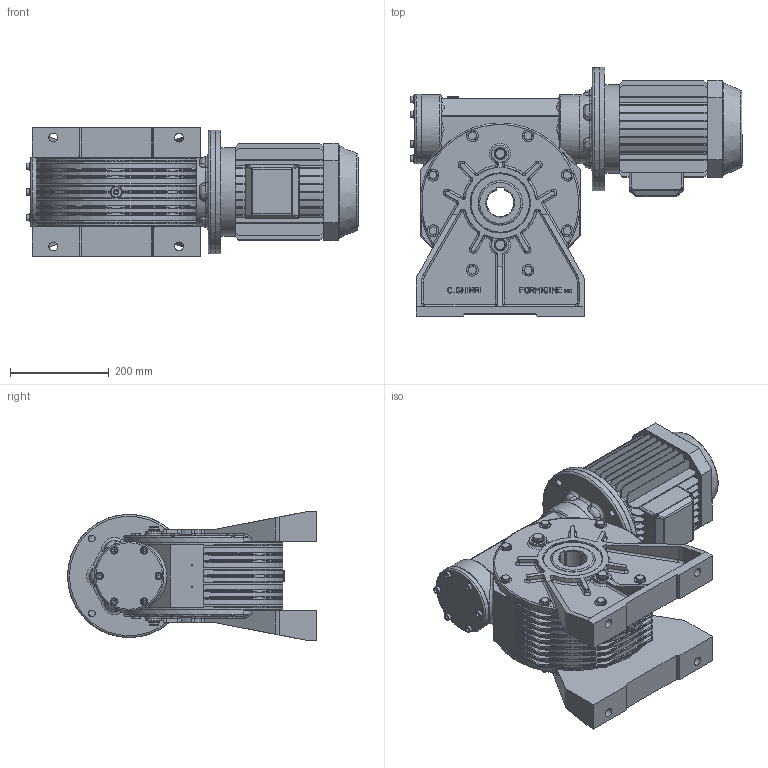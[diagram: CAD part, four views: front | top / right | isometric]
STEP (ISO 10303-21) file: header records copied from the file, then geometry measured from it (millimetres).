
FILE_DESCRIPTION((''),'2;1');
FILE_NAME('Y:\Archivi Inventor\Prog_01\GRAND_70\complessivi\Figurini\mrv70 sito\100\MRV70_P2_100_B5.stp','2013-02-08T14:43:25',('tech3'),(''),'Autodesk Inventor 2013','Autodesk Inventor 2013','');
FILE_SCHEMA(('AUTOMOTIVE_DESIGN { 1 0 10303 214 1 1 1 1 }'));
Length unit declared in the file: millimetre
Products named in the file (17): MRV70_100L_112M_B5; MRV70 figurino; 0107001-A0 figurino; 0107008.A0 figurino; 0107010.A0 figurino; 0107029; 0107009; 0107028; DIN 3760 AS AS - 90 x 120 x 12 - NBR; UNI 8839 A 8; Guarnizione 3_8 GAS; Tappo 3_8 GAS_esagn_incsst; DIN EN ISO 4762 M8 x 20; DIN EN 24017 M10 x 20; Tappo3_8 GAS; 0107006; motori B5 100
Assembly tree (60 placements, depth 3):
  MRV70_100L_112M_B5
    MRV70 figurino
      0107001-A0 figurino
      0107008.A0 figurino
      0107010.A0 figurino  x2
      0107029  x2
      0107009
      0107028  x2
      DIN 3760 AS AS - 90 x 120 x 12 - NBR  x2
      UNI 8839 A 8  x6
      Guarnizione 3_8 GAS  x6
      Tappo 3_8 GAS_esagn_incsst  x2
      DIN EN ISO 4762 M8 x 20  x6
      DIN EN 24017 M10 x 20  x16
      Tappo3_8 GAS  x4
    0107006
    DIN EN ISO 4762 M8 x 20  x6
    motori B5 100
Bounding box: 673.4 x 505 x 260.8 mm (x, y, z)
Volume: 25190152.8 mm3; surface area: 2247784.5 mm2
Topology: 59 solids, 59 shells, 2973 faces, 7420 edges, 4602 vertices
Faces by surface type: plane 1230, cylinder 667, bspline 655, cone 208, torus 205, sphere 8
Full cylindrical faces by diameter (mm): 2 x2, 6.647 x12, 8 x14, 8.376 x16, 8.5 x24, 10 x16, 10.5 x16, 11 x16, 13 x12, 13.046 x4, 14 x4, 14.63 x16, 14.95 x6, 15 x4, 16.3 x6, 16.5 x2, 18 x4, 20 x6, 22 x12, 24 x18, 25 x4, 28 x1, 61 x1, 75 x1, 90 x4, 97.2 x2, 100 x6, 114 x2, 114.4 x1, 120 x4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
Entity records: 67753 total; most frequent: CARTESIAN_POINT 25243, ORIENTED_EDGE 8714, DIRECTION 7903, EDGE_CURVE 4357, AXIS2_PLACEMENT_3D 2958, VERTEX_POINT 2831, EDGE_LOOP 2226, VECTOR 1987
